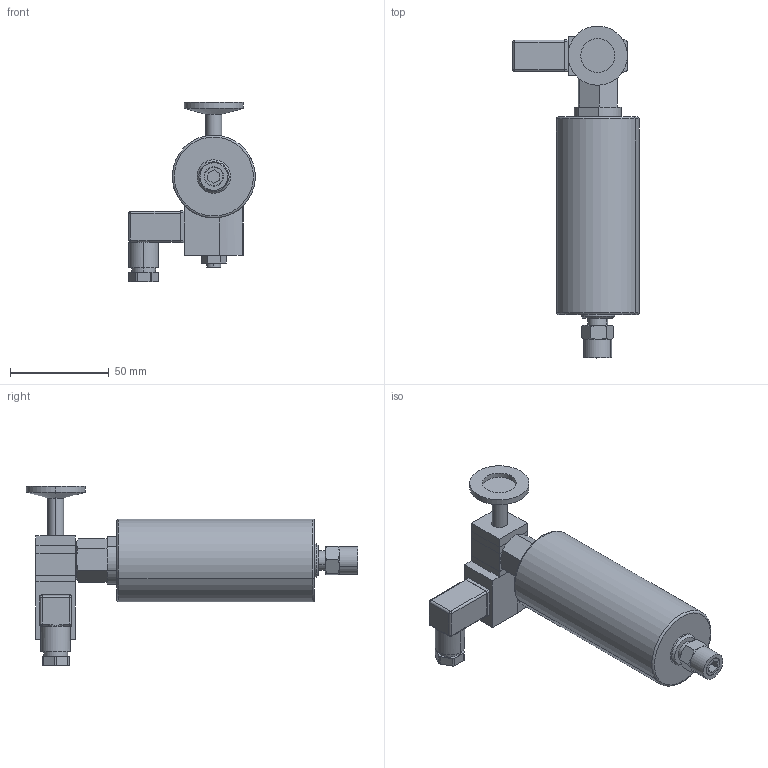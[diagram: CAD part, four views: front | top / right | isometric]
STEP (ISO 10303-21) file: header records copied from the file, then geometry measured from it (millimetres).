
FILE_DESCRIPTION (( 'STEP AP203' ), '1' );
FILE_NAME ('NLD200囀离梓穢杶璃.STEP', '2026-08-28T08:43:50', ( '' ), ( '' ), 'SwSTEP 2.0', 'SolidWorks 2024', '' );
FILE_SCHEMA (( 'CONFIG_CONTROL_DESIGN' ));
Length unit declared in the file: millimetre
Products named in the file (1): NLD200内置标漏套件
Bounding box: 63.95 x 168 x 90.65 mm (x, y, z)
Volume: 191955.5 mm3; surface area: 35418.7 mm2
Topology: 9 solids, 9 shells, 261 faces, 590 edges, 363 vertices
Faces by surface type: plane 116, cylinder 88, cone 29, torus 20, bspline 4, sphere 4
Entity records: 7577 total; most frequent: CARTESIAN_POINT 1585, DIRECTION 1302, ORIENTED_EDGE 1164, EDGE_CURVE 582, AXIS2_PLACEMENT_3D 508, VERTEX_POINT 363, EDGE_LOOP 295, VECTOR 286
